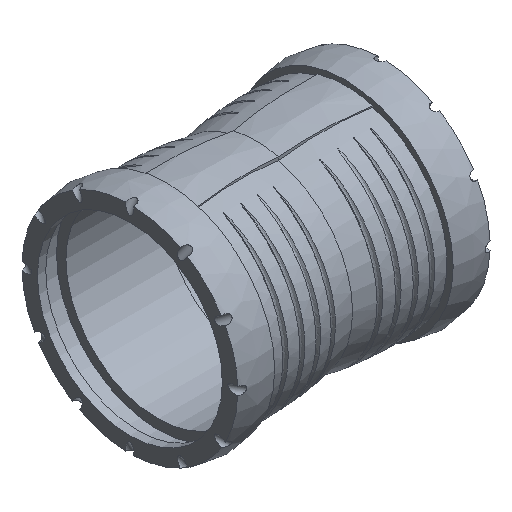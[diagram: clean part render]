
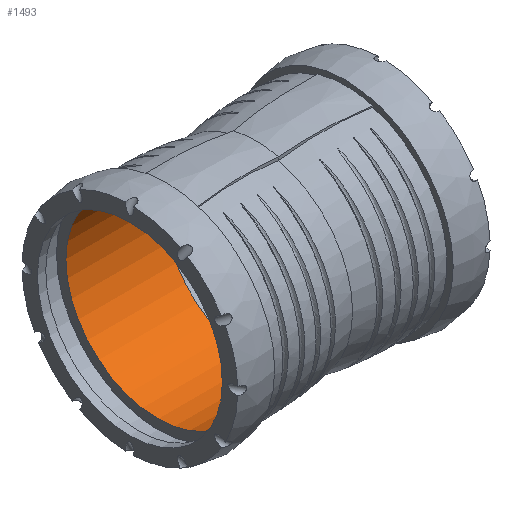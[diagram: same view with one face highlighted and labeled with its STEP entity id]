
A CAD part, isometric view. The second image highlights one B-rep face of the part: STEP entity #1493.
In plain terms, the highlighted cylindrical face has radius 45.45 mm (diameter 90.9 mm), a full revolution.
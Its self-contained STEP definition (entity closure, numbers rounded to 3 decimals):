
#68=CYLINDRICAL_SURFACE('',#1622,45.45);
#180=FACE_OUTER_BOUND('',#469,.T.);
#352=FACE_BOUND('',#470,.T.);
#469=EDGE_LOOP('',(#1299));
#470=EDGE_LOOP('',(#1300));
#503=CIRCLE('',#1563,45.45);
#532=CIRCLE('',#1621,45.45);
#610=VERTEX_POINT('',#4488);
#686=VERTEX_POINT('',#7095);
#791=EDGE_CURVE('',#610,#610,#503,.T.);
#894=EDGE_CURVE('',#686,#686,#532,.T.);
#1299=ORIENTED_EDGE('',*,*,#791,.F.);
#1300=ORIENTED_EDGE('',*,*,#894,.T.);
#1493=ADVANCED_FACE('',(#180,#352),#68,.F.);
#1563=AXIS2_PLACEMENT_3D('',#4489,#1752,#1753);
#1621=AXIS2_PLACEMENT_3D('',#7096,#1868,#1869);
#1622=AXIS2_PLACEMENT_3D('',#7097,#1870,#1871);
#1752=DIRECTION('center_axis',(-1.,0.,0.));
#1753=DIRECTION('ref_axis',(0.,0.,
1.));
#1868=DIRECTION('center_axis',(-1.,0.,0.));
#1869=DIRECTION('ref_axis',(0.,0.,
-1.));
#1870=DIRECTION('center_axis',(-1.,0.,0.));
#1871=DIRECTION('ref_axis',(0.,-1.,0.));
#4488=CARTESIAN_POINT('',(0.,0.,
-45.45));
#4489=CARTESIAN_POINT('Origin',(0.,0.,
0.));
#7095=CARTESIAN_POINT('',(-48.3,-45.45,0.));
#7096=CARTESIAN_POINT('Origin',(-48.3,0.,
0.));
#7097=CARTESIAN_POINT('Origin',(-26.25,0.,
0.));
